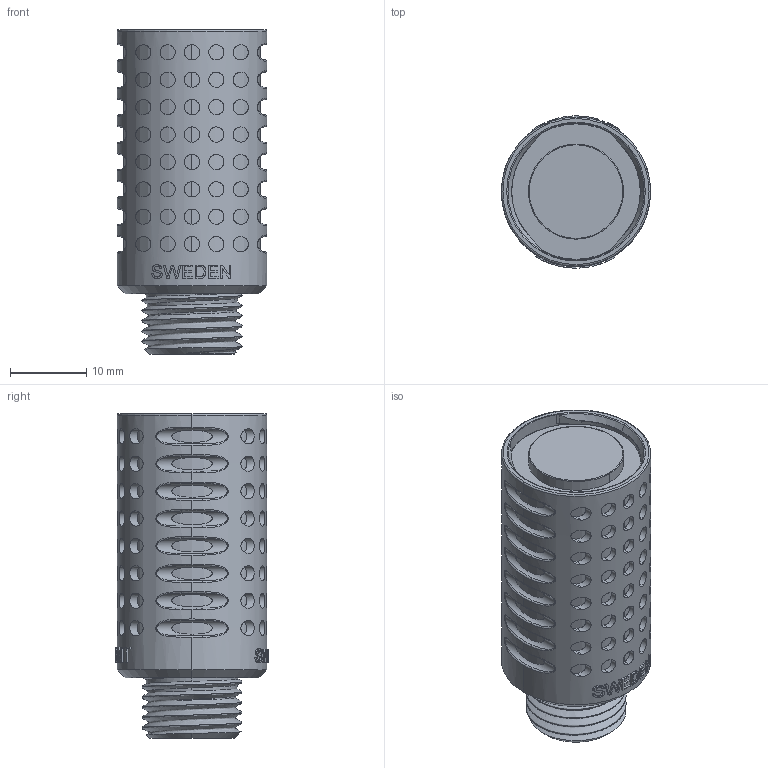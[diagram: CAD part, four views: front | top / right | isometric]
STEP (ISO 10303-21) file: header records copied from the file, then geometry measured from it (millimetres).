
FILE_DESCRIPTION (( 'STEP AP203' ), '1' );
FILE_NAME ('SIS-03.STEP', '2022-06-03T11:41:48', ( '' ), ( '' ), 'SwSTEP 2.0', 'SolidWorks 2021', '' );
FILE_SCHEMA (( 'CONFIG_CONTROL_DESIGN' ));
Length unit declared in the file: millimetre
Products named in the file (4): 69083; SIS-03; 69084; 69082
Assembly tree (3 placements, depth 2):
  SIS-03
    69082
    69083
    69084
Bounding box: 19.6 x 20 x 42.7 mm (x, y, z)
Volume: 7779 mm3; surface area: 10513.3 mm2
Topology: 3 solids, 3 shells, 472 faces, 1378 edges, 917 vertices
Faces by surface type: cylinder 227, plane 123, bspline 79, cone 23, torus 20
Entity records: 32366 total; most frequent: CARTESIAN_POINT 20432, ORIENTED_EDGE 2756, DIRECTION 1776, EDGE_CURVE 1378, VERTEX_POINT 917, EDGE_LOOP 673, AXIS2_PLACEMENT_3D 648, B_SPLINE_CURVE_WITH_KNOTS 589
